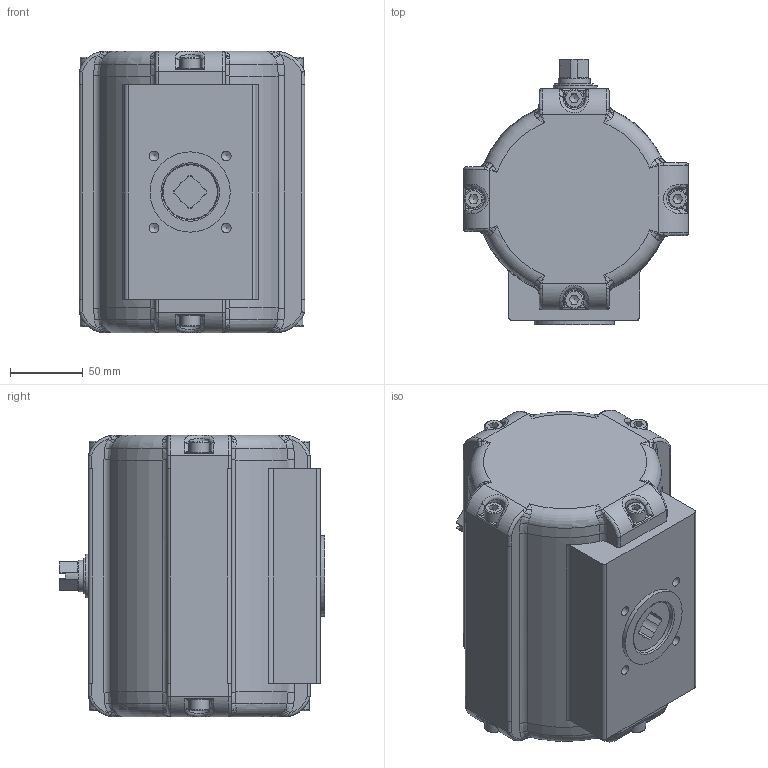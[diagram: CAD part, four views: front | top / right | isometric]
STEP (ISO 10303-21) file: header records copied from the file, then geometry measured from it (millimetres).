
FILE_DESCRIPTION(/* description */ (''),/* implementation_level */ '2;1');
FILE_NAME(/* name */ 'C:\Users\war\Desktop\BR03C_SAD_25.stp',/* time_stamp */ '2021-05-05T09:21:15+02:00',/* author */ ('war'),/* organization */ (''),/* preprocessor_version */ 'ST-DEVELOPER v18.1',/* originating_system */ 'Autodesk Inventor 2021',/* authorisation */ '');
FILE_SCHEMA (('AUTOMOTIVE_DESIGN { 1 0 10303 214 3 1 1 }'));
Products named in the file (1): KOLBEN16_Shrinkwrap_1
Bounding box: 154.5 x 182 x 193 mm (x, y, z)
Volume: 1666108.3 mm3; surface area: 364793 mm2
Topology: 2 solids, 2 shells, 2032 faces, 5140 edges, 3071 vertices
Faces by surface type: cylinder 598, plane 483, bspline 420, torus 372, cone 115, sphere 44
Full cylindrical faces by diameter (mm): 2 x2, 4.134 x8, 4.917 x1, 5 x1, 6.647 x4, 11.445 x2, 13 x8, 16 x3, 16.3 x4, 16.8 x1, 17.8 x1, 18 x3, 20 x1, 20.4 x2, 20.7 x1, 21.8 x3, 22 x1, 22.1 x1, 26.7 x1, 27 x1, 28 x13, 30 x2, 33.8 x2, 34 x1, 37.8 x3, 38 x2, 55 x1, 113.5 x1, 119 x1, 121.5 x2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
Entity records: 79358 total; most frequent: CARTESIAN_POINT 31015, ORIENTED_EDGE 10064, DIRECTION 9380, EDGE_CURVE 5032, AXIS2_PLACEMENT_3D 3997, VERTEX_POINT 3071, CIRCLE 2314, EDGE_LOOP 2128
